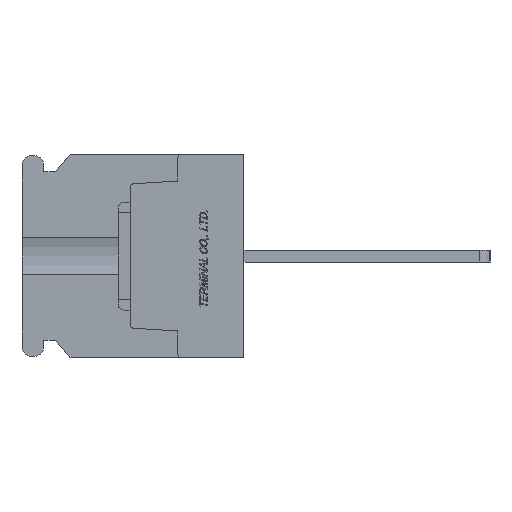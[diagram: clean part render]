
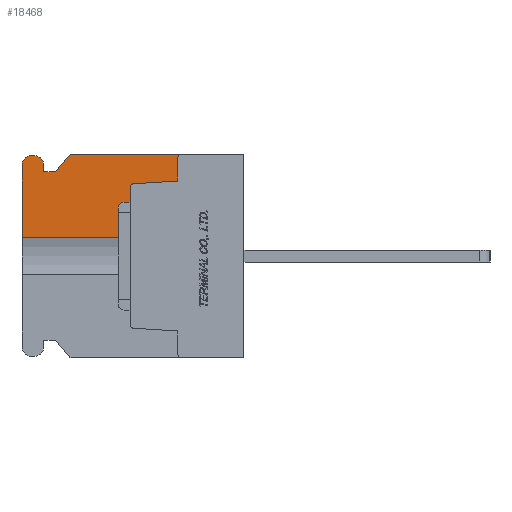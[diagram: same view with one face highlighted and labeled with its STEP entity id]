
A CAD part, left-side view. The second image highlights one B-rep face of the part: STEP entity #18468.
In plain terms, the highlighted planar face has unit normal (-1, 0, 0).
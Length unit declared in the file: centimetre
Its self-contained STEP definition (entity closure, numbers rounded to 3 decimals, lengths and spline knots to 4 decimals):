
#828=CIRCLE('',#31360,0.03);
#829=CIRCLE('',#31364,0.03);
#830=CIRCLE('',#31366,0.075);
#831=CIRCLE('',#31367,0.075);
#2086=VERTEX_POINT('',#27587);
#2087=VERTEX_POINT('',#27589);
#2088=VERTEX_POINT('',#27593);
#2089=VERTEX_POINT('',#27597);
#2090=VERTEX_POINT('',#27601);
#2091=VERTEX_POINT('',#27605);
#2092=VERTEX_POINT('',#27607);
#2093=VERTEX_POINT('',#27609);
#2094=VERTEX_POINT('',#27611);
#2095=VERTEX_POINT('',#27613);
#2096=VERTEX_POINT('',#27615);
#2097=VERTEX_POINT('',#27617);
#2098=VERTEX_POINT('',#27619);
#2099=VERTEX_POINT('',#27621);
#4107=VECTOR('',#21326,1.);
#4109=VECTOR('',#21329,1.);
#4111=VECTOR('',#21336,1.);
#4112=VECTOR('',#21337,1.);
#4113=VECTOR('',#21338,1.);
#4114=VECTOR('',#21339,1.);
#4115=VECTOR('',#21340,1.);
#4116=VECTOR('',#21343,1.);
#4117=VECTOR('',#21346,1.);
#4118=VECTOR('',#21347,1.);
#6121=LINE('',#27594,#4107);
#6123=LINE('',#27598,#4109);
#6125=LINE('',#27604,#4111);
#6126=LINE('',#27606,#4112);
#6127=LINE('',#27608,#4113);
#6128=LINE('',#27610,#4114);
#6129=LINE('',#27612,#4115);
#6130=LINE('',#27616,#4116);
#6131=LINE('',#27620,#4117);
#6132=LINE('',#27622,#4118);
#8441=EDGE_CURVE('',#2087,#2086,#828,.T.);
#8444=EDGE_CURVE('',#2086,#2088,#6121,.T.);
#8446=EDGE_CURVE('',#2088,#2089,#6123,.T.);
#8448=EDGE_CURVE('',#2089,#2090,#829,.T.);
#8449=EDGE_CURVE('',#2091,#2087,#6125,.T.);
#8450=EDGE_CURVE('',#2092,#2090,#6126,.T.);
#8451=EDGE_CURVE('',#2093,#2092,#6127,.T.);
#8452=EDGE_CURVE('',#2094,#2093,#6128,.T.);
#8453=EDGE_CURVE('',#2095,#2094,#6129,.T.);
#8454=EDGE_CURVE('',#2096,#2095,#830,.T.);
#8455=EDGE_CURVE('',#2097,#2096,#6130,.T.);
#8456=EDGE_CURVE('',#2098,#2097,#831,.T.);
#8457=EDGE_CURVE('',#2099,#2098,#6131,.T.);
#8458=EDGE_CURVE('',#2099,#2091,#6132,.T.);
#12537=ORIENTED_EDGE('',*,*,#8449,.T.);
#12538=ORIENTED_EDGE('',*,*,#8441,.T.);
#12539=ORIENTED_EDGE('',*,*,#8444,.T.);
#12540=ORIENTED_EDGE('',*,*,#8446,.T.);
#12541=ORIENTED_EDGE('',*,*,#8448,.T.);
#12542=ORIENTED_EDGE('',*,*,#8450,.F.);
#12543=ORIENTED_EDGE('',*,*,#8451,.F.);
#12544=ORIENTED_EDGE('',*,*,#8452,.F.);
#12545=ORIENTED_EDGE('',*,*,#8453,.F.);
#12546=ORIENTED_EDGE('',*,*,#8454,.F.);
#12547=ORIENTED_EDGE('',*,*,#8455,.F.);
#12548=ORIENTED_EDGE('',*,*,#8456,.F.);
#12549=ORIENTED_EDGE('',*,*,#8457,.F.);
#12550=ORIENTED_EDGE('',*,*,#8458,.T.);
#16188=EDGE_LOOP('',(#12537,#12538,#12539,#12540,#12541,#12542,#12543,#12544,
#12545,#12546,#12547,#12548,#12549,#12550));
#17356=FACE_BOUND('',#16188,.T.);
#18468=ADVANCED_FACE('',(#17356),#19363,.F.);
#19363=PLANE('',#31365);
#21321=DIRECTION('',(1.,0.,0.));
#21322=DIRECTION('',(0.,0.,0.03));
#21326=DIRECTION('',(0.,-0.998,0.061));
#21329=DIRECTION('',(0.,0.,1.));
#21333=DIRECTION('',(1.,0.,0.));
#21334=DIRECTION('',(0.,0.,0.03));
#21335=DIRECTION('',(1.,0.,0.));
#21336=DIRECTION('',(0.,0.,1.));
#21337=DIRECTION('',(0.,-1.,0.));
#21338=DIRECTION('',(0.,-0.625,0.781));
#21339=DIRECTION('',(0.,-1.,0.));
#21340=DIRECTION('',(0.,0.,-1.));
#21341=DIRECTION('',(1.,0.,0.));
#21342=DIRECTION('',(0.,0.,-0.075));
#21343=DIRECTION('',(0.,-1.,0.));
#21344=DIRECTION('',(1.,0.,0.));
#21345=DIRECTION('',(0.,0.,-0.075));
#21346=DIRECTION('',(0.,0.,1.));
#21347=DIRECTION('',(0.,-1.,0.));
#27587=CARTESIAN_POINT('',(-1.1,0.9218,0.6017));
#27588=CARTESIAN_POINT('',(-1.1,0.92,0.5718));
#27589=CARTESIAN_POINT('',(-1.1,0.95,0.5718));
#27593=CARTESIAN_POINT('',(-1.1,0.55,0.6245));
#27594=CARTESIAN_POINT('',(-1.1,0.859,0.6056));
#27597=CARTESIAN_POINT('',(-1.1,0.55,0.82));
#27598=CARTESIAN_POINT('',(-1.1,0.55,0.3611));
#27601=CARTESIAN_POINT('',(-1.1,0.52,0.85));
#27602=CARTESIAN_POINT('',(-1.1,0.52,0.82));
#27603=CARTESIAN_POINT('',(-1.1,0.9454,0.));
#27604=CARTESIAN_POINT('',(-1.1,0.95,0.));
#27605=CARTESIAN_POINT('',(-1.1,0.95,0.1521));
#27606=CARTESIAN_POINT('',(-1.1,1.45,0.85));
#27607=CARTESIAN_POINT('',(-1.1,1.45,0.85));
#27608=CARTESIAN_POINT('',(-1.1,1.57,0.7));
#27609=CARTESIAN_POINT('',(-1.1,1.57,0.7));
#27610=CARTESIAN_POINT('',(-1.1,1.67,0.7));
#27611=CARTESIAN_POINT('',(-1.1,1.67,0.7));
#27612=CARTESIAN_POINT('',(-1.1,1.67,0.76));
#27613=CARTESIAN_POINT('',(-1.1,1.67,0.76));
#27614=CARTESIAN_POINT('',(-1.1,1.745,0.76));
#27615=CARTESIAN_POINT('',(-1.1,1.745,0.835));
#27616=CARTESIAN_POINT('',(-1.1,1.775,0.835));
#27617=CARTESIAN_POINT('',(-1.1,1.775,0.835));
#27618=CARTESIAN_POINT('',(-1.1,1.775,0.76));
#27619=CARTESIAN_POINT('',(-1.1,1.85,0.76));
#27620=CARTESIAN_POINT('',(-1.1,1.85,-0.76));
#27621=CARTESIAN_POINT('',(-1.1,1.85,0.1521));
#27622=CARTESIAN_POINT('',(-1.1,1.4,0.1521));
#31360=AXIS2_PLACEMENT_3D('',#27588,#21321,#21322);
#31364=AXIS2_PLACEMENT_3D('',#27602,#21333,#21334);
#31365=AXIS2_PLACEMENT_3D('',#27603,#21335,$);
#31366=AXIS2_PLACEMENT_3D('',#27614,#21341,#21342);
#31367=AXIS2_PLACEMENT_3D('',#27618,#21344,#21345);
